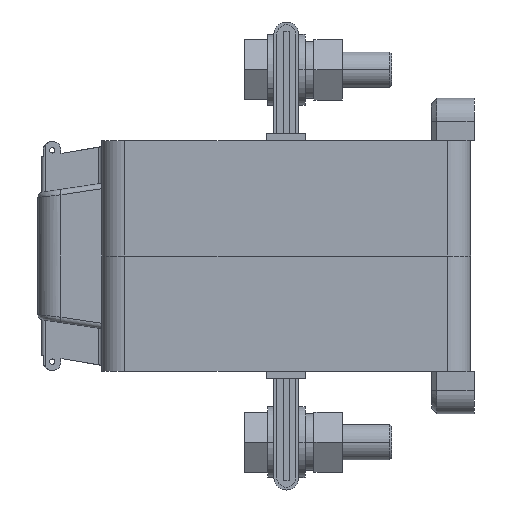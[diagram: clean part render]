
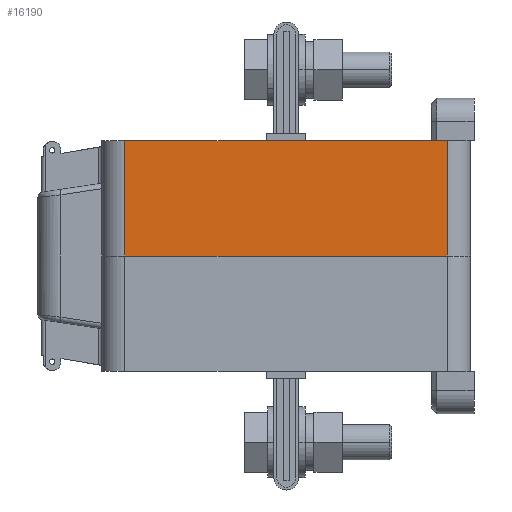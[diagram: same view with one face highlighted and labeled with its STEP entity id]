
A CAD part, left-side view. The second image highlights one B-rep face of the part: STEP entity #16190.
In plain terms, the highlighted planar face has unit normal (-1, 0, 0) as drawn and (1, 0, 0) by its records, which use the part's own axes.
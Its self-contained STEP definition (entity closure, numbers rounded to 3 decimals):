
#460 = CARTESIAN_POINT ( 'NONE',  ( 42.5, 6.5, 0. ) ) ;
#636 = EDGE_LOOP ( 'NONE', ( #32782, #14555, #28116, #36706 ) ) ;
#783 = EDGE_CURVE ( 'NONE', #34561, #23658, #44986, .T. ) ;
#2664 = VERTEX_POINT ( 'NONE', #460 ) ;
#4363 = CARTESIAN_POINT ( 'NONE',  ( 42.5, 104., 0. ) ) ;
#6083 = DIRECTION ( 'NONE',  ( 0., -1., 0. ) ) ;
#6443 = LINE ( 'NONE', #40951, #35232 ) ;
#6856 = CARTESIAN_POINT ( 'NONE',  ( 42.5, 104., 32.5 ) ) ;
#8490 = EDGE_CURVE ( 'NONE', #45478, #23658, #6443, .T. ) ;
#12949 = DIRECTION ( 'NONE',  ( 0., 1., 0. ) ) ;
#14291 = CARTESIAN_POINT ( 'NONE',  ( 42.5, 6.5, 32.5 ) ) ;
#14371 = DIRECTION ( 'NONE',  ( -1., 0., 0. ) ) ;
#14555 = ORIENTED_EDGE ( 'NONE', *, *, #17861, .T. ) ;
#14733 = VECTOR ( 'NONE', #12949, 1000. ) ;
#15250 = VECTOR ( 'NONE', #42328, 1000. ) ;
#16190 = ADVANCED_FACE ( 'NONE', ( #38240 ), #46039, .F. ) ;
#17861 = EDGE_CURVE ( 'NONE', #34561, #2664, #21312, .T. ) ;
#17915 = CARTESIAN_POINT ( 'NONE',  ( 42.5, 97.5, 32.5 ) ) ;
#20494 = VECTOR ( 'NONE', #41614, 1000. ) ;
#21312 = LINE ( 'NONE', #14291, #15250 ) ;
#21488 = DIRECTION ( 'NONE',  ( 0., 0., 1. ) ) ;
#23658 = VERTEX_POINT ( 'NONE', #17915 ) ;
#28116 = ORIENTED_EDGE ( 'NONE', *, *, #48002, .T. ) ;
#28242 = LINE ( 'NONE', #4363, #14733 ) ;
#32760 = CARTESIAN_POINT ( 'NONE',  ( 42.5, 97.5, 0. ) ) ;
#32782 = ORIENTED_EDGE ( 'NONE', *, *, #783, .F. ) ;
#34561 = VERTEX_POINT ( 'NONE', #35521 ) ;
#35232 = VECTOR ( 'NONE', #21488, 1000. ) ;
#35521 = CARTESIAN_POINT ( 'NONE',  ( 42.5, 6.5, 32.5 ) ) ;
#36706 = ORIENTED_EDGE ( 'NONE', *, *, #8490, .T. ) ;
#38240 = FACE_OUTER_BOUND ( 'NONE', #636, .T. ) ;
#40951 = CARTESIAN_POINT ( 'NONE',  ( 42.5, 97.5, 32.5 ) ) ;
#41096 = CARTESIAN_POINT ( 'NONE',  ( 42.5, 104., 32.5 ) ) ;
#41614 = DIRECTION ( 'NONE',  ( 0., 1., 0. ) ) ;
#42328 = DIRECTION ( 'NONE',  ( 0., 0., -1. ) ) ;
#44986 = LINE ( 'NONE', #41096, #20494 ) ;
#45478 = VERTEX_POINT ( 'NONE', #32760 ) ;
#46039 = PLANE ( 'NONE',  #50790 ) ;
#48002 = EDGE_CURVE ( 'NONE', #2664, #45478, #28242, .T. ) ;
#50790 = AXIS2_PLACEMENT_3D ( 'NONE', #6856, #14371, #6083 ) ;
